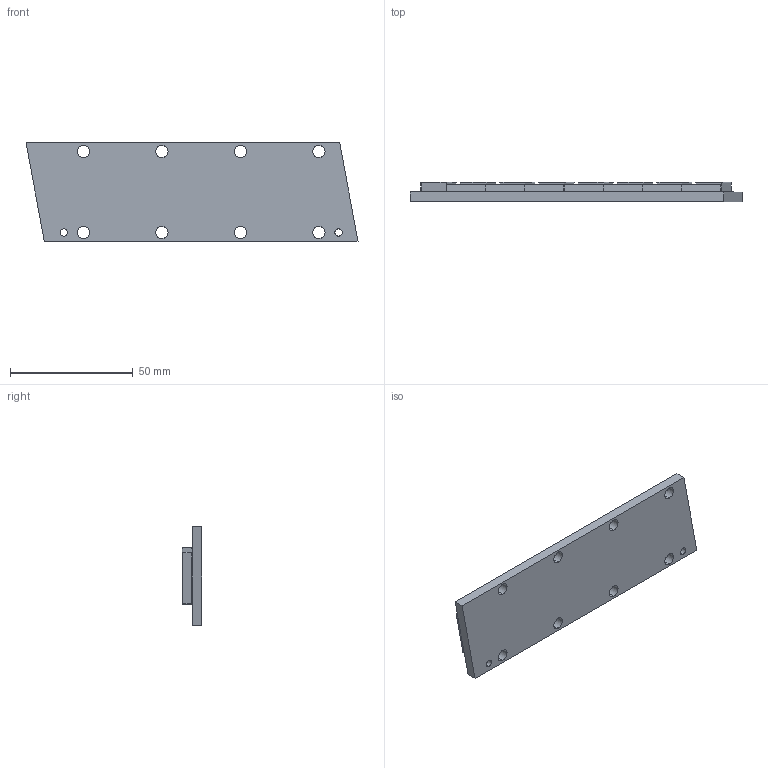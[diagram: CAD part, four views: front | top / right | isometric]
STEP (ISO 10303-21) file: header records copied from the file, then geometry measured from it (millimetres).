
FILE_DESCRIPTION (( 'STEP AP203' ), '1' );
FILE_NAME ('MP40-128 3D.STEP', '2021-03-25T10:24:20', ( '' ), ( '' ), 'SwSTEP 2.0', 'SolidWorks 2021', '' );
FILE_SCHEMA (( 'CONFIG_CONTROL_DESIGN' ));
Length unit declared in the file: millimetre
Products named in the file (1): MP40-128 3D
Bounding box: 135.33 x 8 x 40 mm (x, y, z)
Volume: 30024.4 mm3; surface area: 13163.7 mm2
Topology: 1 solids, 1 shells, 199 faces, 494 edges, 262 vertices
Faces by surface type: cylinder 90, plane 59, sphere 50
Entity records: 5653 total; most frequent: DIRECTION 1058, CARTESIAN_POINT 932, ORIENTED_EDGE 916, EDGE_CURVE 458, AXIS2_PLACEMENT_3D 404, VERTEX_POINT 262, LINE 250, VECTOR 250
